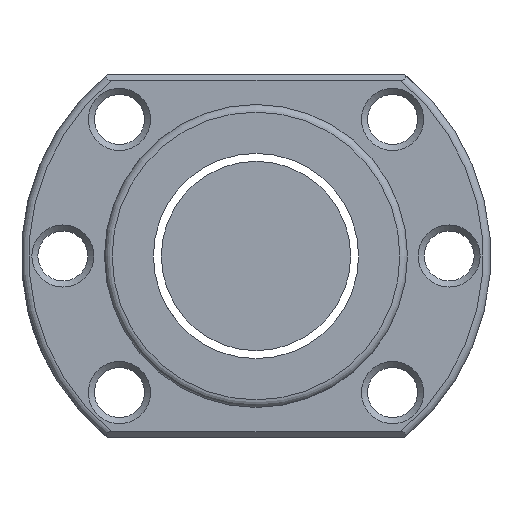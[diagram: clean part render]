
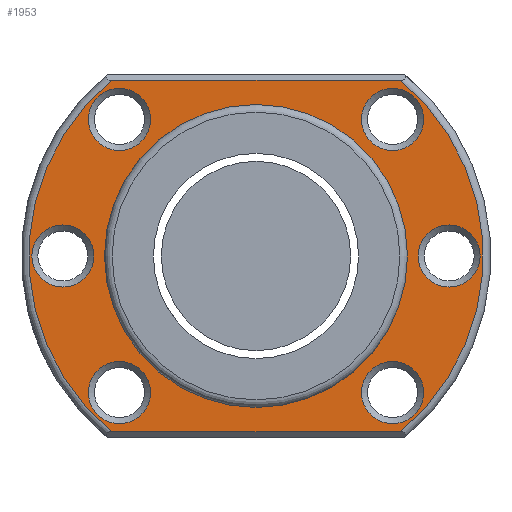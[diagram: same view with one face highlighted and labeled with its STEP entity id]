
A CAD part, left-side view. The second image highlights one B-rep face of the part: STEP entity #1953.
In plain terms, the highlighted planar face has unit normal (-1, 0, 0).
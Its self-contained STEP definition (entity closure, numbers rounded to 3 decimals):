
#46 = EDGE_LOOP ( 'NONE', ( #614, #803, #3170, #1701 ) ) ;
#48 = DIRECTION ( 'NONE',  ( 1., 0., 0. ) ) ;
#97 = LINE ( 'NONE', #853, #1097 ) ;
#100 = AXIS2_PLACEMENT_3D ( 'NONE', #2079, #2545, #593 ) ;
#129 = LINE ( 'NONE', #2592, #311 ) ;
#143 = FACE_BOUND ( 'NONE', #2741, .T. ) ;
#161 = CARTESIAN_POINT ( 'NONE',  ( -78., -18.031, 22.131 ) ) ;
#179 = VERTEX_POINT ( 'NONE', #1869 ) ;
#255 = ORIENTED_EDGE ( 'NONE', *, *, #839, .T. ) ;
#291 = EDGE_CURVE ( 'NONE', #911, #911, #1608, .T. ) ;
#295 = EDGE_LOOP ( 'NONE', ( #522 ) ) ;
#301 = DIRECTION ( 'NONE',  ( 1., 0., 0. ) ) ;
#311 = VECTOR ( 'NONE', #910, 1000. ) ;
#340 = CARTESIAN_POINT ( 'NONE',  ( -78., 25.5, 0. ) ) ;
#350 = EDGE_CURVE ( 'NONE', #2533, #179, #3048, .T. ) ;
#364 = AXIS2_PLACEMENT_3D ( 'NONE', #2193, #949, #3157 ) ;
#386 = DIRECTION ( 'NONE',  ( 0., 0., 1. ) ) ;
#389 = EDGE_CURVE ( 'NONE', #179, #456, #97, .T. ) ;
#400 = FACE_BOUND ( 'NONE', #2501, .T. ) ;
#437 = VERTEX_POINT ( 'NONE', #161 ) ;
#456 = VERTEX_POINT ( 'NONE', #2409 ) ;
#522 = ORIENTED_EDGE ( 'NONE', *, *, #2645, .T. ) ;
#523 = AXIS2_PLACEMENT_3D ( 'NONE', #1836, #896, #2394 ) ;
#589 = DIRECTION ( 'NONE',  ( 1., 0., 0. ) ) ;
#593 = DIRECTION ( 'NONE',  ( 0., 0., 1. ) ) ;
#614 = ORIENTED_EDGE ( 'NONE', *, *, #2425, .T. ) ;
#637 = FACE_BOUND ( 'NONE', #1750, .T. ) ;
#657 = CARTESIAN_POINT ( 'NONE',  ( -78., 0., 0. ) ) ;
#731 = CIRCLE ( 'NONE', #2127, 4.1 ) ;
#773 = ORIENTED_EDGE ( 'NONE', *, *, #291, .T. ) ;
#793 = EDGE_LOOP ( 'NONE', ( #2029 ) ) ;
#803 = ORIENTED_EDGE ( 'NONE', *, *, #1736, .T. ) ;
#839 = EDGE_CURVE ( 'NONE', #2396, #2396, #1149, .T. ) ;
#853 = CARTESIAN_POINT ( 'NONE',  ( -78., 31., 23.2 ) ) ;
#896 = DIRECTION ( 'NONE',  ( -1., 0., 0. ) ) ;
#910 = DIRECTION ( 'NONE',  ( 0., -1., 0. ) ) ;
#911 = VERTEX_POINT ( 'NONE', #1652 ) ;
#915 = DIRECTION ( 'NONE',  ( 1., 0., 0. ) ) ;
#929 = EDGE_CURVE ( 'NONE', #437, #437, #731, .T. ) ;
#930 = CARTESIAN_POINT ( 'NONE',  ( -78., 18.031, -18.031 ) ) ;
#941 = AXIS2_PLACEMENT_3D ( 'NONE', #340, #48, #2562 ) ;
#949 = DIRECTION ( 'NONE',  ( 1., 0., 0. ) ) ;
#1000 = DIRECTION ( 'NONE',  ( 1., 0., 0. ) ) ;
#1048 = EDGE_LOOP ( 'NONE', ( #255 ) ) ;
#1097 = VECTOR ( 'NONE', #1838, 1000. ) ;
#1149 = CIRCLE ( 'NONE', #1454, 4.1 ) ;
#1152 = AXIS2_PLACEMENT_3D ( 'NONE', #930, #915, #1902 ) ;
#1206 = CARTESIAN_POINT ( 'NONE',  ( -78., 18.031, 22.131 ) ) ;
#1285 = DIRECTION ( 'NONE',  ( 0., 0., 1. ) ) ;
#1288 = EDGE_LOOP ( 'NONE', ( #773 ) ) ;
#1444 = CARTESIAN_POINT ( 'NONE',  ( -78., 0., -20. ) ) ;
#1449 = DIRECTION ( 'NONE',  ( 0., 0., 1. ) ) ;
#1454 = AXIS2_PLACEMENT_3D ( 'NONE', #2813, #589, #2508 ) ;
#1462 = VERTEX_POINT ( 'NONE', #1444 ) ;
#1608 = CIRCLE ( 'NONE', #100, 4.1 ) ;
#1623 = FACE_BOUND ( 'NONE', #793, .T. ) ;
#1652 = CARTESIAN_POINT ( 'NONE',  ( -78., -18.031, -13.931 ) ) ;
#1701 = ORIENTED_EDGE ( 'NONE', *, *, #389, .T. ) ;
#1703 = CARTESIAN_POINT ( 'NONE',  ( -78., 19.02, -23.2 ) ) ;
#1728 = CARTESIAN_POINT ( 'NONE',  ( -78., 18.031, -13.931 ) ) ;
#1736 = EDGE_CURVE ( 'NONE', #2754, #2533, #129, .T. ) ;
#1750 = EDGE_LOOP ( 'NONE', ( #1768 ) ) ;
#1768 = ORIENTED_EDGE ( 'NONE', *, *, #929, .T. ) ;
#1802 = CARTESIAN_POINT ( 'NONE',  ( -78., -18.031, 18.031 ) ) ;
#1836 = CARTESIAN_POINT ( 'NONE',  ( -78., 31., 0. ) ) ;
#1838 = DIRECTION ( 'NONE',  ( 0., 1., 0. ) ) ;
#1869 = CARTESIAN_POINT ( 'NONE',  ( -78., -19.02, 23.2 ) ) ;
#1902 = DIRECTION ( 'NONE',  ( 0., 0., 1. ) ) ;
#1919 = DIRECTION ( 'NONE',  ( -1., 0., 0. ) ) ;
#1953 = ADVANCED_FACE ( 'NONE', ( #3077, #2829, #637, #1623, #400, #3118, #143, #3134 ), #2605, .T. ) ;
#2017 = AXIS2_PLACEMENT_3D ( 'NONE', #2110, #2606, #386 ) ;
#2029 = ORIENTED_EDGE ( 'NONE', *, *, #2763, .T. ) ;
#2079 = CARTESIAN_POINT ( 'NONE',  ( -78., -18.031, -18.031 ) ) ;
#2110 = CARTESIAN_POINT ( 'NONE',  ( -78., 0., 0. ) ) ;
#2127 = AXIS2_PLACEMENT_3D ( 'NONE', #1802, #301, #1285 ) ;
#2160 = CARTESIAN_POINT ( 'NONE',  ( -78., -19.02, -23.2 ) ) ;
#2178 = CIRCLE ( 'NONE', #2591, 30. ) ;
#2180 = AXIS2_PLACEMENT_3D ( 'NONE', #2465, #1000, #2688 ) ;
#2193 = CARTESIAN_POINT ( 'NONE',  ( -78., 0., 0. ) ) ;
#2394 = DIRECTION ( 'NONE',  ( 0., 0., 1. ) ) ;
#2396 = VERTEX_POINT ( 'NONE', #3108 ) ;
#2408 = EDGE_CURVE ( 'NONE', #1462, #1462, #3204, .T. ) ;
#2409 = CARTESIAN_POINT ( 'NONE',  ( -78., 19.02, 23.2 ) ) ;
#2425 = EDGE_CURVE ( 'NONE', #456, #2754, #2178, .T. ) ;
#2442 = VERTEX_POINT ( 'NONE', #1728 ) ;
#2458 = VERTEX_POINT ( 'NONE', #3166 ) ;
#2465 = CARTESIAN_POINT ( 'NONE',  ( -78., 18.031, 18.031 ) ) ;
#2485 = CIRCLE ( 'NONE', #2180, 4.1 ) ;
#2501 = EDGE_LOOP ( 'NONE', ( #2629 ) ) ;
#2508 = DIRECTION ( 'NONE',  ( 0., 0., 1. ) ) ;
#2517 = ORIENTED_EDGE ( 'NONE', *, *, #2408, .T. ) ;
#2533 = VERTEX_POINT ( 'NONE', #2160 ) ;
#2539 = CIRCLE ( 'NONE', #1152, 4.1 ) ;
#2545 = DIRECTION ( 'NONE',  ( 1., 0., 0. ) ) ;
#2562 = DIRECTION ( 'NONE',  ( 0., 0., 1. ) ) ;
#2591 = AXIS2_PLACEMENT_3D ( 'NONE', #657, #1919, #1449 ) ;
#2592 = CARTESIAN_POINT ( 'NONE',  ( -78., 31., -23.2 ) ) ;
#2605 = PLANE ( 'NONE',  #523 ) ;
#2606 = DIRECTION ( 'NONE',  ( -1., 0., 0. ) ) ;
#2629 = ORIENTED_EDGE ( 'NONE', *, *, #3097, .T. ) ;
#2645 = EDGE_CURVE ( 'NONE', #2442, #2442, #2539, .T. ) ;
#2688 = DIRECTION ( 'NONE',  ( 0., 0., 1. ) ) ;
#2741 = EDGE_LOOP ( 'NONE', ( #2517 ) ) ;
#2742 = CIRCLE ( 'NONE', #941, 4.1 ) ;
#2754 = VERTEX_POINT ( 'NONE', #1703 ) ;
#2763 = EDGE_CURVE ( 'NONE', #2925, #2925, #2485, .T. ) ;
#2813 = CARTESIAN_POINT ( 'NONE',  ( -78., -25.5, 0. ) ) ;
#2829 = FACE_BOUND ( 'NONE', #1048, .T. ) ;
#2925 = VERTEX_POINT ( 'NONE', #1206 ) ;
#3048 = CIRCLE ( 'NONE', #2017, 30. ) ;
#3077 = FACE_BOUND ( 'NONE', #1288, .T. ) ;
#3097 = EDGE_CURVE ( 'NONE', #2458, #2458, #2742, .T. ) ;
#3108 = CARTESIAN_POINT ( 'NONE',  ( -78., -25.5, 4.1 ) ) ;
#3118 = FACE_BOUND ( 'NONE', #295, .T. ) ;
#3134 = FACE_OUTER_BOUND ( 'NONE', #46, .T. ) ;
#3157 = DIRECTION ( 'NONE',  ( 0., 0., -1. ) ) ;
#3166 = CARTESIAN_POINT ( 'NONE',  ( -78., 25.5, 4.1 ) ) ;
#3170 = ORIENTED_EDGE ( 'NONE', *, *, #350, .T. ) ;
#3204 = CIRCLE ( 'NONE', #364, 20. ) ;
